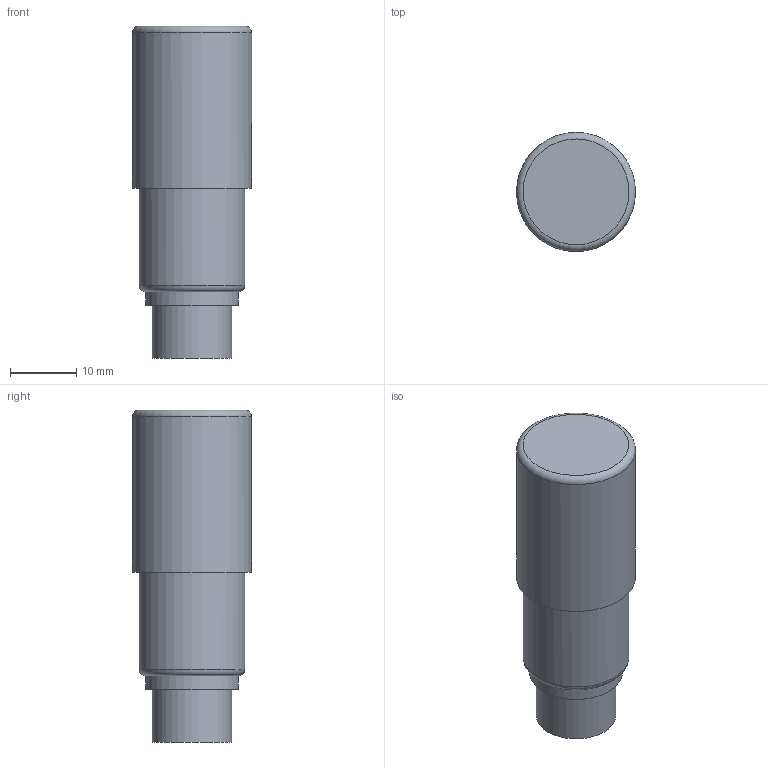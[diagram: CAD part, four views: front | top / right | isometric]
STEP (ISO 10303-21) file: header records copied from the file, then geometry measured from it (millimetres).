
FILE_DESCRIPTION(/* description */ (''),/* implementation_level */ '2;1');
FILE_NAME(/* name */ 'C:\#Vault-WorkDir\Konstruktions-Dokumente\Projekte\Ultraschallsensoren\153-00582_UT 18.stp',/* time_stamp */ '2019-01-16T10:40:02+01:00',/* author */ ('SensoPart'),/* organization */ ('SensoPart'),/* preprocessor_version */ 'ST-DEVELOPER v17',/* originating_system */ 'Autodesk Inventor 2018',/* authorisation */ '');
FILE_SCHEMA (('AUTOMOTIVE_DESIGN { 1 0 10303 214 3 1 1 }'));
Length unit declared in the file: millimetre
Products named in the file (1): GH-ENG-0027747
Bounding box: 18 x 18 x 50.2 mm (x, y, z)
Volume: 10581.5 mm3; surface area: 3026.4 mm2
Topology: 1 solids, 1 shells, 10 faces, 24 edges, 18 vertices
Faces by surface type: plane 4, cylinder 4, torus 2
Full cylindrical faces by diameter (mm): 12 x1, 14 x1, 16 x1, 18 x1
Entity records: 372 total; most frequent: DIRECTION 66, CARTESIAN_POINT 53, ORIENTED_EDGE 48, AXIS2_PLACEMENT_3D 31, EDGE_CURVE 24, CIRCLE 20, VERTEX_POINT 18, EDGE_LOOP 12
